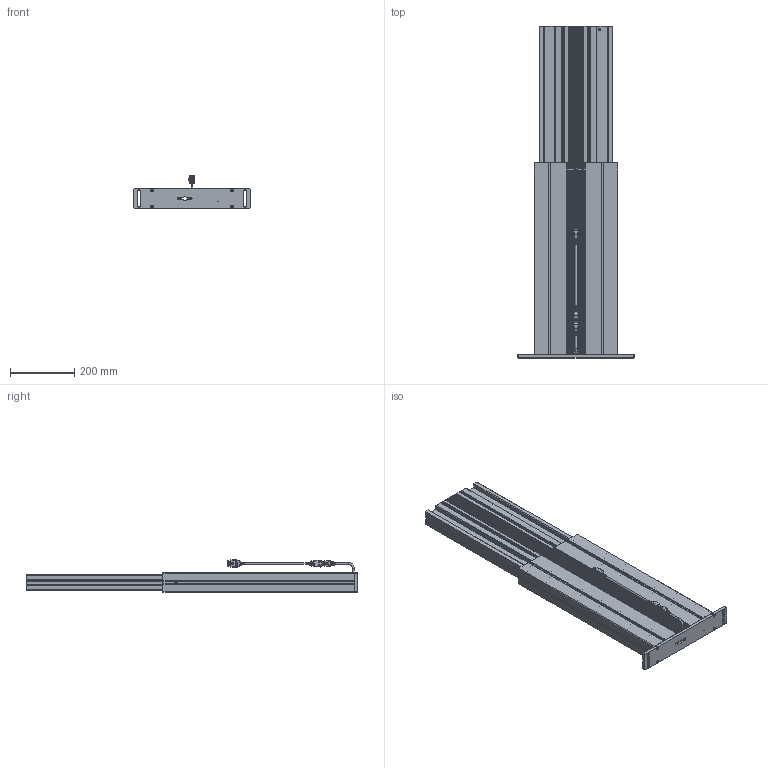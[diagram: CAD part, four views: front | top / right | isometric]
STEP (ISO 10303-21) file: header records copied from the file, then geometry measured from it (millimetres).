
FILE_DESCRIPTION(/* description */ ('Unknown'),/* implementation_level */ '2;1');
FILE_NAME(/* name */ '901.00004_07-ausgefahren',/* time_stamp */ '2022-06-27T09:35:44+02:00',/* author */ ('Unknown'),/* organization */ ('Unknown'),/* preprocessor_version */ 'ST-DEVELOPER v18.1',/* originating_system */ 'Solid Edge',/* authorisation */ 'Unknown');
FILE_SCHEMA (('AUTOMOTIVE_DESIGN {1 0 10303 214 3 1 1}'));
Products named in the file (12): 901.00004; 126.00137; 119.00302; 119.00401; 142.00166; 124.00201_oa_0; 142.00241; 110.00104_oa_1; 115.00200_oa_2; 124.00151; Kabel Motor Sx; 142.00341
Assembly tree (16 placements, depth 2):
  901.00004
    126.00137
    119.00302
    119.00401
    142.00166  x4
    124.00201_oa_0
    142.00241  x2
    110.00104_oa_1
    115.00200_oa_2
    124.00151
    Kabel Motor Sx
    142.00341  x2
Bounding box: 360 x 1030 x 100.67 mm (x, y, z)
Volume: 3070122.7 mm3; surface area: 1875022.6 mm2
Topology: 13 solids, 13 shells, 3227 faces, 9137 edges, 6050 vertices
Faces by surface type: plane 1895, cylinder 1139, torus 103, bspline 72, cone 12, sphere 6
Full cylindrical faces by diameter (mm): 1.5 x6, 1.82 x6, 2.459 x1, 2.7 x6, 3.242 x4, 3.4 x1, 4 x4, 5 x5, 5.5 x4, 6 x3, 7 x4, 8.5 x4, 8.7 x4, 30 x2
Entity records: 127792 total; most frequent: CARTESIAN_POINT 22243, ORIENTED_EDGE 17786, DIRECTION 17228, EDGE_CURVE 8893, VERTEX_POINT 5931, LINE 5866, VECTOR 5866, AXIS2_PLACEMENT_3D 5681
